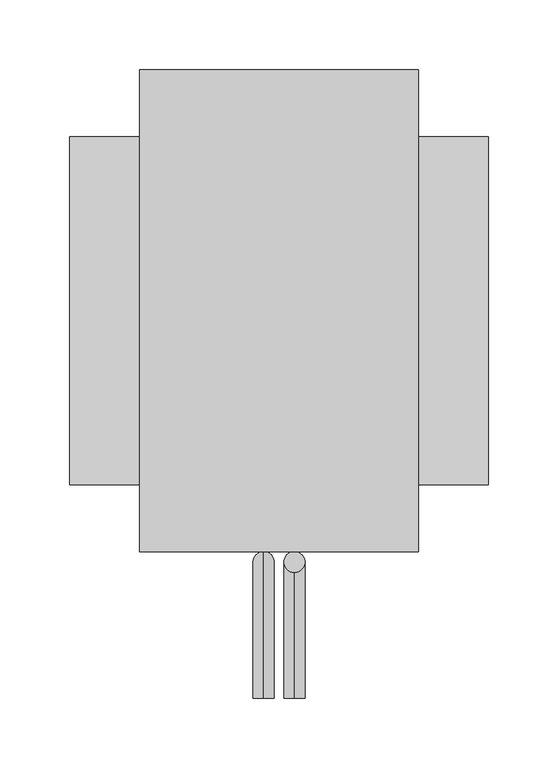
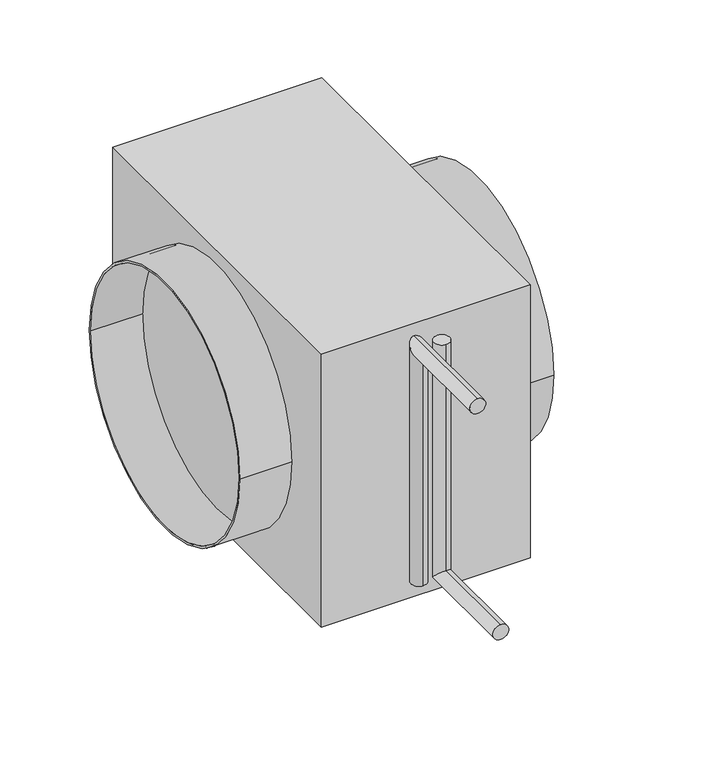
"""IFC4 building model written with IfcOpenShell, lengths in millimetres: proxy geometry, СВ_ВоздухонагревательВодяной_КанальныйКруглый_DN160-315_SKH-W : SKH-W-250."""

from ifc_helpers import new_model, si_unit, point, frame, origin, origin_2d, place, context, project, spatial, polyline, circle_curve, ellipse_curve, trimmed, segment, composite_curve, outline, extrude, source, transform, mapped, element, save
from ifc_brep_helpers import plane_surface, cylinder_surface, advanced_brep


def mechanical_equipment_9b5d0357(model_context):
    return source(origin(), model_context, "Body", "SolidModel", [
        advanced_brep(
        [(11.0, -277.5, -125.5), (11.0, -277.5, -110.5), (11.0, -172.5, -125.5), (11.0, -187.5, -110.5), (11.0, -172.5, 118.0), (11.0, -187.5, 118.0)],
        [
            (0, 1, circle_curve(frame((11.0, -277.5, -118.0), z_axis=(0.0, -1.0, 0.0), x_axis=(0.0, 0.0, 1.0)), 7.5)),
            (1, 0, circle_curve(frame((11.0, -277.5, -118.0), z_axis=(0.0, -1.0, 0.0), x_axis=(0.0, 0.0, 1.0)), 7.5)),
            (0, 2),
            (2, 3, ellipse_curve(frame((11.0, -180.0, -118.0), z_axis=(0.0, -0.7071067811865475, -0.7071067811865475), x_axis=(0.0, -0.7071067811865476, 0.7071067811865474)), 10.6066017, 7.5)),
            (3, 1),
            (3, 2, ellipse_curve(frame((11.0, -180.0, -118.0), z_axis=(0.0, -0.7071067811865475, -0.7071067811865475), x_axis=(0.0, -0.7071067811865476, 0.7071067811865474)), 10.6066017, 7.5)),
            (4, 5, circle_curve(frame((11.0, -180.0, 118.0), z_axis=(0.0, 0.0, 1.0), x_axis=(0.0, -1.0, 0.0)), 7.5)),
            (5, 4, circle_curve(frame((11.0, -180.0, 118.0), z_axis=(0.0, 0.0, 1.0), x_axis=(0.0, -1.0, 0.0)), 7.5)),
            (2, 4),
            (5, 3),
        ],
        [
            plane_surface(frame((11.0, -277.5, -118.0), z_axis=(0.0, -1.0, 0.0), x_axis=(1.0, 0.0, 0.0))),
            cylinder_surface(frame((11.0, -277.5, -118.0), z_axis=(0.0, -1.0, 0.0), x_axis=(0.0, 0.0, 1.0)), 7.5),
            plane_surface(frame((11.0, -180.0, 118.0), z_axis=(0.0, 0.0, 1.0), x_axis=(1.0, 0.0, 0.0))),
            cylinder_surface(frame((11.0, -180.0, -118.0), z_axis=(0.0, 0.0, -1.0), x_axis=(0.0, -1.0, 0.0)), 7.5),
        ],
        [
            (0, [[1, 2]]),
            (1, [[-1, 3, 4, 5]]),
            (1, [[-2, -5, 6, -3]]),
            (2, [[7, 8]]),
            (3, [[-4, 9, -8, 10]]),
            (3, [[-6, -10, -7, -9]]),
        ],
    ),
        advanced_brep(
        [(-11.0, -277.5, 110.5), (-11.0, -277.5, 125.5), (-11.0, -187.5, 110.5), (-11.0, -172.5, 125.5), (-11.0, -187.5, -118.0), (-11.0, -172.5, -118.0)],
        [
            (0, 1, circle_curve(frame((-11.0, -277.5, 118.0), z_axis=(0.0, -1.0, 0.0), x_axis=(0.0, 0.0, 1.0)), 7.5)),
            (1, 0, circle_curve(frame((-11.0, -277.5, 118.0), z_axis=(0.0, -1.0, 0.0), x_axis=(0.0, 0.0, 1.0)), 7.5)),
            (0, 2),
            (2, 3, ellipse_curve(frame((-11.0, -180.0, 118.0), z_axis=(0.0, -0.7071067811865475, 0.7071067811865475), x_axis=(0.0, -0.7071067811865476, -0.7071067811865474)), 10.6066017, 7.5)),
            (3, 1),
            (3, 2, ellipse_curve(frame((-11.0, -180.0, 118.0), z_axis=(0.0, -0.7071067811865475, 0.7071067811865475), x_axis=(0.0, -0.7071067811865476, -0.7071067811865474)), 10.6066017, 7.5)),
            (4, 5, circle_curve(frame((-11.0, -180.0, -118.0), z_axis=(0.0, 0.0, -1.0), x_axis=(0.0, 1.0, 0.0)), 7.5)),
            (5, 4, circle_curve(frame((-11.0, -180.0, -118.0), z_axis=(0.0, 0.0, -1.0), x_axis=(0.0, 1.0, 0.0)), 7.5)),
            (2, 4),
            (5, 3),
        ],
        [
            plane_surface(frame((-11.0, -277.5, 118.0), z_axis=(0.0, -1.0, 0.0), x_axis=(1.0, 0.0, 0.0))),
            cylinder_surface(frame((-11.0, -277.5, 118.0), z_axis=(0.0, -1.0, 0.0), x_axis=(0.0, 0.0, 1.0)), 7.5),
            plane_surface(frame((-11.0, -180.0, -118.0), z_axis=(0.0, 0.0, -1.0), x_axis=(1.0, 0.0, 0.0))),
            cylinder_surface(frame((-11.0, -180.0, 118.0), z_axis=(0.0, 0.0, 1.0), x_axis=(0.0, 1.0, 0.0)), 7.5),
        ],
        [
            (0, [[1, 2]]),
            (1, [[-1, 3, 4, 5]]),
            (1, [[-2, -5, 6, -3]]),
            (2, [[7, 8]]),
            (3, [[-4, 9, -8, 10]]),
            (3, [[-6, -10, -7, -9]]),
        ],
    ),
        extrude(outline(polyline([(100.0, -172.5), (-100.0, -172.5), (-100.0, 172.5), (100.0, 172.5), (100.0, -172.5)])), frame((0.0, 0.0, -138.0), z_axis=(0.0, 0.0, 1.0), x_axis=(1.0, 0.0, 0.0)), (0.0, 0.0, 1.0), 276.0),
        extrude(outline(composite_curve([segment(trimmed(circle_curve(origin_2d(), 124.5), [point((-124.5, 0.0))], [point((124.5, 0.0))], False, "CARTESIAN"), True, "CONTINUOUS"), segment(trimmed(circle_curve(origin_2d(), 124.5), [point((124.5, 0.0))], [point((-124.5, 0.0))], False, "CARTESIAN"), True, "CONTINUOUS")], self_intersect=False), holes=[composite_curve([segment(trimmed(circle_curve(origin_2d(), 122.5), [point((-122.5, 0.0))], [point((122.5, 0.0))], True, "CARTESIAN"), True, "CONTINUOUS"), segment(trimmed(circle_curve(origin_2d(), 122.5), [point((122.5, 0.0))], [point((-122.5, 0.0))], True, "CARTESIAN"), True, "CONTINUOUS")], self_intersect=False)]), frame((-150.0, 0.0, 0.0), z_axis=(1.0, 0.0, 0.0), x_axis=(0.0, 1.0, 0.0)), (0.0, 0.0, 1.0), 50.0),
        extrude(outline(composite_curve([segment(trimmed(circle_curve(origin_2d(), 124.5), [point((-124.5, 0.0))], [point((124.5, 0.0))], False, "CARTESIAN"), True, "CONTINUOUS"), segment(trimmed(circle_curve(origin_2d(), 124.5), [point((124.5, 0.0))], [point((-124.5, 0.0))], False, "CARTESIAN"), True, "CONTINUOUS")], self_intersect=False), holes=[composite_curve([segment(trimmed(circle_curve(origin_2d(), 122.5), [point((-122.5, 0.0))], [point((122.5, 0.0))], True, "CARTESIAN"), True, "CONTINUOUS"), segment(trimmed(circle_curve(origin_2d(), 122.5), [point((122.5, 0.0))], [point((-122.5, 0.0))], True, "CARTESIAN"), True, "CONTINUOUS")], self_intersect=False)]), frame((100.0, 0.0, 0.0), z_axis=(1.0, 0.0, 0.0), x_axis=(0.0, 1.0, 0.0)), (0.0, 0.0, 1.0), 50.0),
    ])


if __name__ == "__main__":
    model = new_model("IFC4")
    model_context = context("Model", 3, world=origin())
    ifc_project = project(units=[si_unit("LENGTHUNIT", "METRE", prefix="MILLI")], contexts=[model_context])
    site = spatial("IfcSite", under=ifc_project)
    building = spatial("IfcBuilding", under=site)
    placement = place(None, origin())
    mechanical_equipment_shape = mechanical_equipment_9b5d0357(model_context)
    element("IfcBuildingElementProxy", 1, Name="СВ_ВоздухонагревательВодяной_КанальныйКруглый_DN160-315_SKH-W : SKH-W-250", ObjectType="СВ_ВоздухонагревательВодяной_КанальныйКруглый_DN160-315_SKH-W : SKH-W-250", at=placement, inside=building, context=model_context, shape_type="MappedRepresentation", body=[
        mapped(mechanical_equipment_shape, transform((0.0, 0.0, 0.0), x_axis=(1.0, 0.0, 0.0), y_axis=(0.0, 1.0, 0.0), z_axis=(0.0, 0.0, 1.0))),
    ])
    save(model, "model.ifc")
